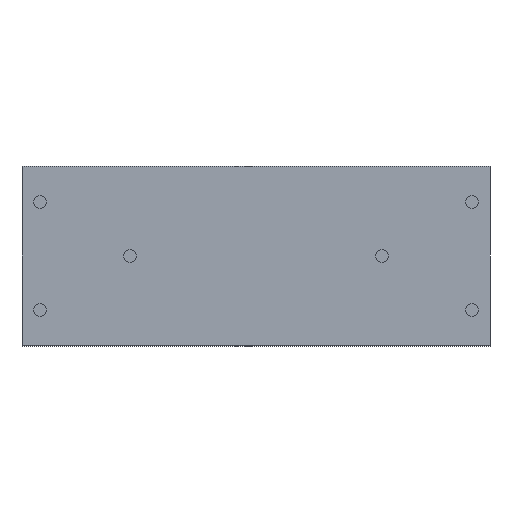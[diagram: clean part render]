
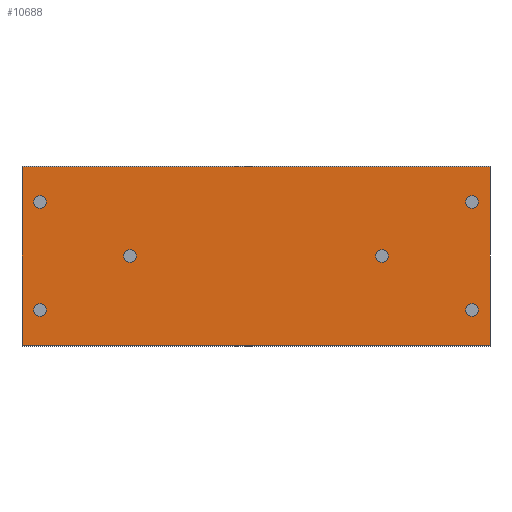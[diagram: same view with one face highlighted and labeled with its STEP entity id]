
A CAD part, front view. The second image highlights one B-rep face of the part: STEP entity #10688.
In plain terms, the highlighted planar face has unit normal (0, -1, 0).
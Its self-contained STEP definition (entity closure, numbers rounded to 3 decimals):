
#358=CIRCLE('',#11322,3.5);
#359=CIRCLE('',#11323,3.5);
#360=CIRCLE('',#11324,3.5);
#361=CIRCLE('',#11325,3.5);
#362=CIRCLE('',#11326,3.5);
#363=CIRCLE('',#11327,3.5);
#1092=ORIENTED_EDGE('',*,*,#4361,.F.);
#1093=ORIENTED_EDGE('',*,*,#4362,.F.);
#1094=ORIENTED_EDGE('',*,*,#4363,.T.);
#1095=ORIENTED_EDGE('',*,*,#4364,.F.);
#1096=ORIENTED_EDGE('',*,*,#4365,.F.);
#1097=ORIENTED_EDGE('',*,*,#4366,.F.);
#1098=ORIENTED_EDGE('',*,*,#4315,.T.);
#1099=ORIENTED_EDGE('',*,*,#4367,.F.);
#1100=ORIENTED_EDGE('',*,*,#4368,.F.);
#1101=ORIENTED_EDGE('',*,*,#4359,.T.);
#4315=EDGE_CURVE('',#5956,#5955,#7055,.T.);
#4359=EDGE_CURVE('',#5990,#5956,#7099,.T.);
#4361=EDGE_CURVE('',#5991,#5991,#358,.T.);
#4362=EDGE_CURVE('',#5992,#5992,#359,.T.);
#4363=EDGE_CURVE('',#5993,#5993,#360,.T.);
#4364=EDGE_CURVE('',#5994,#5994,#361,.T.);
#4365=EDGE_CURVE('',#5995,#5995,#362,.T.);
#4366=EDGE_CURVE('',#5996,#5996,#363,.T.);
#4367=EDGE_CURVE('',#5997,#5955,#7101,.T.);
#4368=EDGE_CURVE('',#5990,#5997,#7102,.T.);
#5955=VERTEX_POINT('',#16138);
#5956=VERTEX_POINT('',#16140);
#5990=VERTEX_POINT('',#16225);
#5991=VERTEX_POINT('',#16229);
#5992=VERTEX_POINT('',#16231);
#5993=VERTEX_POINT('',#16233);
#5994=VERTEX_POINT('',#16235);
#5995=VERTEX_POINT('',#16237);
#5996=VERTEX_POINT('',#16239);
#5997=VERTEX_POINT('',#16241);
#7055=LINE('',#16139,#8047);
#7099=LINE('',#16224,#8091);
#7101=LINE('',#16240,#8093);
#7102=LINE('',#16242,#8094);
#8047=VECTOR('',#12606,1000.);
#8091=VECTOR('',#12664,1000.);
#8093=VECTOR('',#12680,1000.);
#8094=VECTOR('',#12681,1000.);
#9021=EDGE_LOOP('',(#1092));
#9022=EDGE_LOOP('',(#1093));
#9023=EDGE_LOOP('',(#1094));
#9024=EDGE_LOOP('',(#1095));
#9025=EDGE_LOOP('',(#1096));
#9026=EDGE_LOOP('',(#1097));
#9027=EDGE_LOOP('',(#1098,#1099,#1100,#1101));
#9715=FACE_BOUND('',#9021,.T.);
#9716=FACE_BOUND('',#9022,.T.);
#9717=FACE_BOUND('',#9023,.T.);
#9718=FACE_BOUND('',#9024,.T.);
#9719=FACE_BOUND('',#9025,.T.);
#9720=FACE_BOUND('',#9026,.T.);
#9721=FACE_BOUND('',#9027,.T.);
#10409=PLANE('',#11321);
#10688=ADVANCED_FACE('',(#9715,#9716,#9717,#9718,#9719,#9720,#9721),#10409,
 .F.);
#11321=AXIS2_PLACEMENT_3D('',#16227,#12666,#12667);
#11322=AXIS2_PLACEMENT_3D('',#16228,#12668,#12669);
#11323=AXIS2_PLACEMENT_3D('',#16230,#12670,#12671);
#11324=AXIS2_PLACEMENT_3D('',#16232,#12672,#12673);
#11325=AXIS2_PLACEMENT_3D('',#16234,#12674,#12675);
#11326=AXIS2_PLACEMENT_3D('',#16236,#12676,#12677);
#11327=AXIS2_PLACEMENT_3D('',#16238,#12678,#12679);
#12606=DIRECTION('',(0.,0.,-1.));
#12664=DIRECTION('',(-1.,0.,0.));
#12666=DIRECTION('',(0.,1.,0.));
#12667=DIRECTION('',(0.,0.,1.));
#12668=DIRECTION('',(0.,-1.,0.));
#12669=DIRECTION('',(0.,0.,-1.));
#12670=DIRECTION('',(0.,-1.,0.));
#12671=DIRECTION('',(0.,0.,-1.));
#12672=DIRECTION('',(0.,1.,0.));
#12673=DIRECTION('',(0.,0.,1.));
#12674=DIRECTION('',(0.,-1.,0.));
#12675=DIRECTION('',(0.,0.,-1.));
#12676=DIRECTION('',(0.,-1.,0.));
#12677=DIRECTION('',(0.,0.,-1.));
#12678=DIRECTION('',(0.,-1.,0.));
#12679=DIRECTION('',(0.,0.,-1.));
#12680=DIRECTION('',(-1.,0.,0.));
#12681=DIRECTION('',(0.,0.,-1.));
#16138=CARTESIAN_POINT('',(0.,0.,-49.7));
#16139=CARTESIAN_POINT('',(0.,0.,49.7));
#16140=CARTESIAN_POINT('',(0.,0.,49.7));
#16224=CARTESIAN_POINT('',(260.,0.,49.7));
#16225=CARTESIAN_POINT('',(260.,0.,49.7));
#16227=CARTESIAN_POINT('',(260.,0.,49.7));
#16228=CARTESIAN_POINT('',(200.,0.,0.));
#16229=CARTESIAN_POINT('',(200.,0.,-3.5));
#16230=CARTESIAN_POINT('',(60.,0.,0.));
#16231=CARTESIAN_POINT('',(60.,0.,-3.5));
#16232=CARTESIAN_POINT('',(250.,0.,30.));
#16233=CARTESIAN_POINT('',(250.,0.,33.5));
#16234=CARTESIAN_POINT('',(250.,0.,-30.));
#16235=CARTESIAN_POINT('',(250.,0.,-33.5));
#16236=CARTESIAN_POINT('',(10.,0.,-30.));
#16237=CARTESIAN_POINT('',(10.,0.,-33.5));
#16238=CARTESIAN_POINT('',(10.,0.,30.));
#16239=CARTESIAN_POINT('',(10.,0.,26.5));
#16240=CARTESIAN_POINT('',(260.,0.,-49.7));
#16241=CARTESIAN_POINT('',(260.,0.,-49.7));
#16242=CARTESIAN_POINT('',(260.,0.,49.7));
